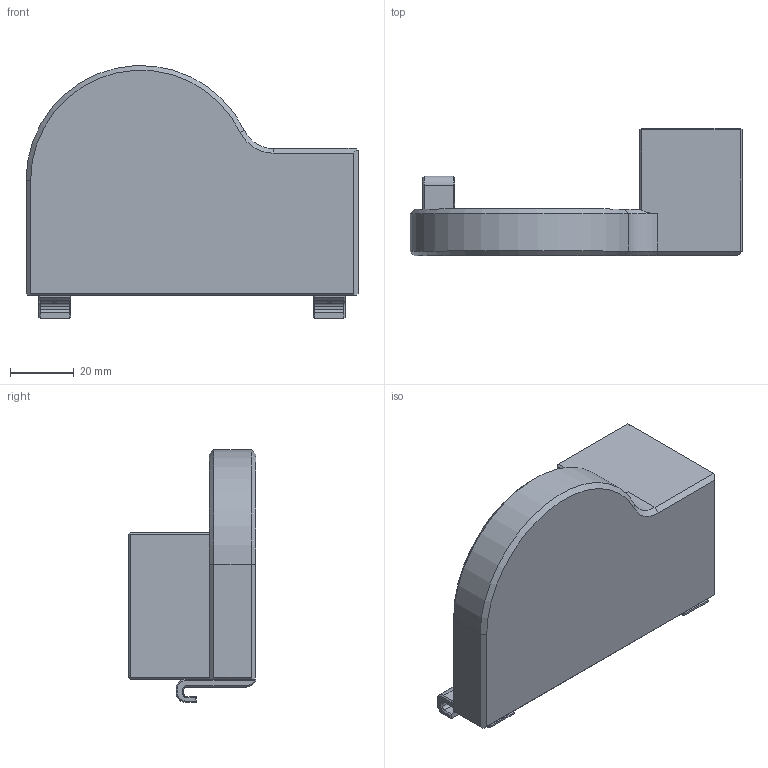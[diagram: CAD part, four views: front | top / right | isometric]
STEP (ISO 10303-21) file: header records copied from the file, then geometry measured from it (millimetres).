
FILE_DESCRIPTION (( 'STEP AP214' ), '1' );
FILE_NAME ('Graph holder.STEP', '2025-08-06T12:10:53', ( '' ), ( '' ), 'SwSTEP 2.0', 'SolidWorks 2025', '' );
FILE_SCHEMA (( 'AUTOMOTIVE_DESIGN' ));
Length unit declared in the file: millimetre
Products named in the file (1): Graph holder
Bounding box: 104 x 40 x 79.14 mm (x, y, z)
Volume: 66694.7 mm3; surface area: 27981.2 mm2
Topology: 3 solids, 3 shells, 209 faces, 490 edges, 292 vertices
Faces by surface type: plane 117, cone 54, cylinder 36, bspline 2
Entity records: 6481 total; most frequent: CARTESIAN_POINT 1614, DIRECTION 1022, ORIENTED_EDGE 980, EDGE_CURVE 490, AXIS2_PLACEMENT_3D 344, VECTOR 334, LINE 334, VERTEX_POINT 292
